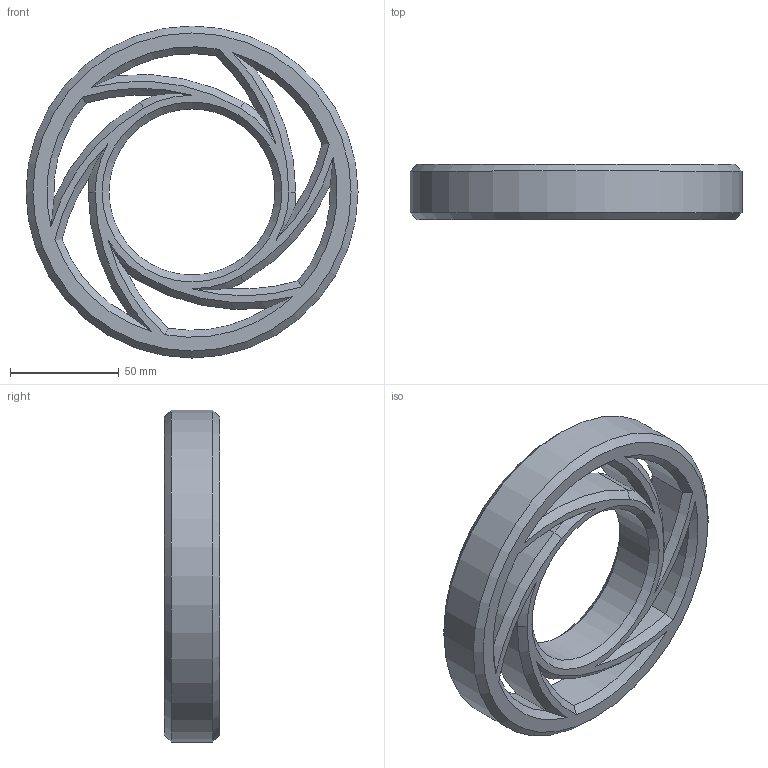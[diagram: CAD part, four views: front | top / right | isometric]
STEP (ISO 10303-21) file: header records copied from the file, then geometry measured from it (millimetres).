
FILE_DESCRIPTION(/* description */ (''),/* implementation_level */ '2;1');
FILE_NAME(/* name */ 'GP TAKTIK 2025 curved v2.step',/* time_stamp */ '2024-10-12T19:52:41-04:00',/* author */ (''),/* organization */ (''),/* preprocessor_version */ 'ST-DEVELOPER v20',/* originating_system */ 'Autodesk Translation Framework v13.20.0.188',/* authorisation */ '');
FILE_SCHEMA (('AUTOMOTIVE_DESIGN { 1 0 10303 214 3 1 1 }'));
Length unit declared in the file: inch
Products named in the file (1): GP TAKTIK 2025 curved
Bounding box: 152.4 x 25.4 x 152.4 mm (x, y, z)
Volume: 245997.9 mm3; surface area: 55776 mm2
Topology: 1 solids, 1 shells, 80 faces, 182 edges, 104 vertices
Faces by surface type: cone 52, cylinder 26, plane 2
Full cylindrical faces by diameter (mm): 76.2 x1, 152.4 x1
Entity records: 2333 total; most frequent: CARTESIAN_POINT 475, DIRECTION 412, ORIENTED_EDGE 364, AXIS2_PLACEMENT_3D 185, EDGE_CURVE 182, CIRCLE 104, VERTEX_POINT 104, EDGE_LOOP 94
